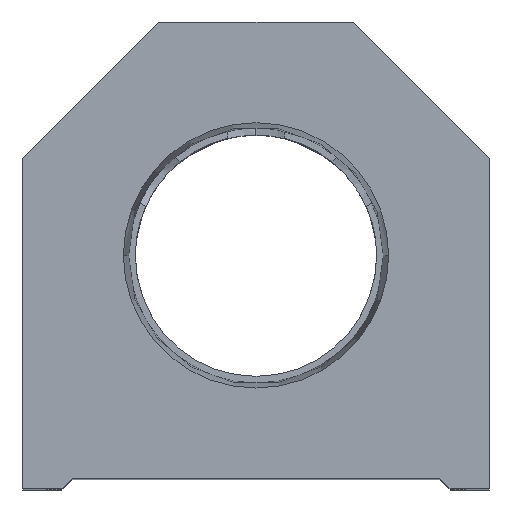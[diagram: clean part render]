
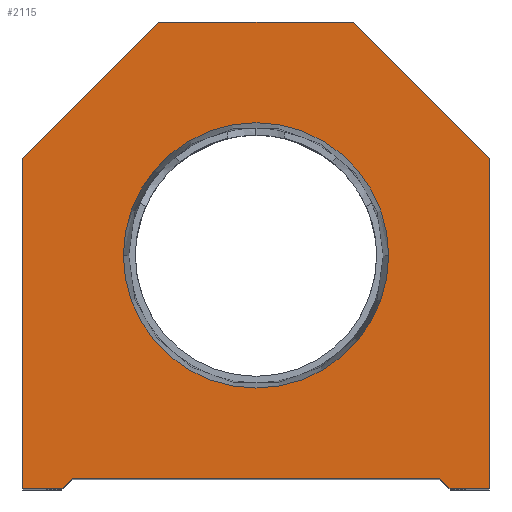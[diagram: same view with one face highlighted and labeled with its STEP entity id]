
A CAD part, top view. The second image highlights one B-rep face of the part: STEP entity #2115.
In plain terms, the highlighted planar face has unit normal (0, 0, 1).
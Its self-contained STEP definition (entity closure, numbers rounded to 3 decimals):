
#67 = VERTEX_POINT ( 'NONE', #12495 ) ;
#102 = CIRCLE ( 'NONE', #11386, 12.647 ) ;
#108 = EDGE_CURVE ( 'NONE', #3399, #3706, #11916, .T. ) ;
#152 = VECTOR ( 'NONE', #12980, 1000. ) ;
#337 = EDGE_LOOP ( 'NONE', ( #14018, #8992, #3071, #1024, #1656, #1639, #8427, #2992, #6129, #7632 ) ) ;
#482 = CARTESIAN_POINT ( 'NONE',  ( 22.25, 0., 0. ) ) ;
#711 = DIRECTION ( 'NONE',  ( 0., 1., 0. ) ) ;
#753 = EDGE_CURVE ( 'NONE', #1341, #9269, #8487, .T. ) ;
#844 = LINE ( 'NONE', #10708, #3509 ) ;
#1024 = ORIENTED_EDGE ( 'NONE', *, *, #5407, .T. ) ;
#1066 = CARTESIAN_POINT ( 'NONE',  ( -22.25, 0., 0. ) ) ;
#1316 = FACE_OUTER_BOUND ( 'NONE', #337, .T. ) ;
#1341 = VERTEX_POINT ( 'NONE', #13454 ) ;
#1413 = CARTESIAN_POINT ( 'NONE',  ( 12.647, 22.25, 0. ) ) ;
#1489 = EDGE_CURVE ( 'NONE', #12697, #2827, #8647, .T. ) ;
#1639 = ORIENTED_EDGE ( 'NONE', *, *, #8298, .T. ) ;
#1656 = ORIENTED_EDGE ( 'NONE', *, *, #13530, .T. ) ;
#2115 = ADVANCED_FACE ( 'NONE', ( #12642, #1316 ), #7051, .T. ) ;
#2171 = DIRECTION ( 'NONE',  ( 0., -1., 0. ) ) ;
#2827 = VERTEX_POINT ( 'NONE', #1413 ) ;
#2928 = CARTESIAN_POINT ( 'NONE',  ( 22.25, 0., 0. ) ) ;
#2992 = ORIENTED_EDGE ( 'NONE', *, *, #9428, .T. ) ;
#3071 = ORIENTED_EDGE ( 'NONE', *, *, #5593, .T. ) ;
#3110 = DIRECTION ( 'NONE',  ( -1., 0., 0. ) ) ;
#3399 = VERTEX_POINT ( 'NONE', #5127 ) ;
#3450 = AXIS2_PLACEMENT_3D ( 'NONE', #4512, #6731, #8948 ) ;
#3496 = VECTOR ( 'NONE', #2171, 1000. ) ;
#3509 = VECTOR ( 'NONE', #3110, 1000. ) ;
#3538 = DIRECTION ( 'NONE',  ( 0., 0., 1. ) ) ;
#3706 = VERTEX_POINT ( 'NONE', #3911 ) ;
#3911 = CARTESIAN_POINT ( 'NONE',  ( -17.5, 1., 0. ) ) ;
#3939 = DIRECTION ( 'NONE',  ( 0.707, 0.707, 0. ) ) ;
#4317 = LINE ( 'NONE', #12066, #7957 ) ;
#4478 = EDGE_CURVE ( 'NONE', #14078, #3399, #4317, .T. ) ;
#4512 = CARTESIAN_POINT ( 'NONE',  ( 0., 22.25, 0. ) ) ;
#4663 = VECTOR ( 'NONE', #5838, 1000. ) ;
#5127 = CARTESIAN_POINT ( 'NONE',  ( -18.5, 0., 0. ) ) ;
#5373 = DIRECTION ( 'NONE',  ( -0.707, 0.707, 0. ) ) ;
#5407 = EDGE_CURVE ( 'NONE', #12611, #12340, #10121, .T. ) ;
#5536 = CARTESIAN_POINT ( 'NONE',  ( 18.5, 0., 0. ) ) ;
#5593 = EDGE_CURVE ( 'NONE', #3706, #12611, #13954, .T. ) ;
#5671 = CARTESIAN_POINT ( 'NONE',  ( 17.5, 0., 0. ) ) ;
#5722 = DIRECTION ( 'NONE',  ( 1., 0., 0. ) ) ;
#5750 = DIRECTION ( 'NONE',  ( 1., 0., 0. ) ) ;
#5796 = DIRECTION ( 'NONE',  ( 0., 0., 1. ) ) ;
#5838 = DIRECTION ( 'NONE',  ( 0.707, -0.707, 0. ) ) ;
#6040 = AXIS2_PLACEMENT_3D ( 'NONE', #6979, #5796, #5722 ) ;
#6129 = ORIENTED_EDGE ( 'NONE', *, *, #753, .T. ) ;
#6146 = VECTOR ( 'NONE', #5373, 1000. ) ;
#6380 = LINE ( 'NONE', #482, #9624 ) ;
#6512 = EDGE_LOOP ( 'NONE', ( #7475, #13893 ) ) ;
#6625 = VERTEX_POINT ( 'NONE', #13038 ) ;
#6731 = DIRECTION ( 'NONE',  ( 0., 0., 1. ) ) ;
#6781 = CARTESIAN_POINT ( 'NONE',  ( 17.5, 1., 0. ) ) ;
#6846 = LINE ( 'NONE', #9058, #6146 ) ;
#6936 = CARTESIAN_POINT ( 'NONE',  ( 0., 22.25, 0. ) ) ;
#6942 = VERTEX_POINT ( 'NONE', #2928 ) ;
#6948 = CARTESIAN_POINT ( 'NONE',  ( -22.25, 0., 0. ) ) ;
#6979 = CARTESIAN_POINT ( 'NONE',  ( 0., 0., 0. ) ) ;
#7051 = PLANE ( 'NONE',  #6040 ) ;
#7386 = CARTESIAN_POINT ( 'NONE',  ( -17.5, 1., 0. ) ) ;
#7475 = ORIENTED_EDGE ( 'NONE', *, *, #12539, .F. ) ;
#7632 = ORIENTED_EDGE ( 'NONE', *, *, #8379, .T. ) ;
#7957 = VECTOR ( 'NONE', #8831, 1000. ) ;
#8191 = VECTOR ( 'NONE', #11890, 1000. ) ;
#8298 = EDGE_CURVE ( 'NONE', #6942, #67, #6380, .T. ) ;
#8379 = EDGE_CURVE ( 'NONE', #9269, #14078, #8808, .T. ) ;
#8427 = ORIENTED_EDGE ( 'NONE', *, *, #9547, .T. ) ;
#8487 = LINE ( 'NONE', #9435, #152 ) ;
#8647 = CIRCLE ( 'NONE', #3450, 12.647 ) ;
#8808 = LINE ( 'NONE', #1066, #3496 ) ;
#8831 = DIRECTION ( 'NONE',  ( 1., 0., 0. ) ) ;
#8948 = DIRECTION ( 'NONE',  ( 1., 0., 0. ) ) ;
#8992 = ORIENTED_EDGE ( 'NONE', *, *, #108, .T. ) ;
#9058 = CARTESIAN_POINT ( 'NONE',  ( 22.25, 31.5, 0. ) ) ;
#9269 = VERTEX_POINT ( 'NONE', #10402 ) ;
#9428 = EDGE_CURVE ( 'NONE', #6625, #1341, #844, .T. ) ;
#9435 = CARTESIAN_POINT ( 'NONE',  ( -22.25, 31.5, 0. ) ) ;
#9547 = EDGE_CURVE ( 'NONE', #67, #6625, #6846, .T. ) ;
#9624 = VECTOR ( 'NONE', #711, 1000. ) ;
#10121 = LINE ( 'NONE', #10256, #4663 ) ;
#10256 = CARTESIAN_POINT ( 'NONE',  ( 9.25, 9.25, 0. ) ) ;
#10402 = CARTESIAN_POINT ( 'NONE',  ( -22.25, 31.5, 0. ) ) ;
#10708 = CARTESIAN_POINT ( 'NONE',  ( 9.25, 44.5, 0. ) ) ;
#11066 = LINE ( 'NONE', #5671, #13045 ) ;
#11289 = DIRECTION ( 'NONE',  ( 1., 0., 0. ) ) ;
#11386 = AXIS2_PLACEMENT_3D ( 'NONE', #6936, #3538, #5750 ) ;
#11890 = DIRECTION ( 'NONE',  ( 1., 0., 0. ) ) ;
#11916 = LINE ( 'NONE', #14056, #14275 ) ;
#12066 = CARTESIAN_POINT ( 'NONE',  ( -17.5, 0., 0. ) ) ;
#12306 = CARTESIAN_POINT ( 'NONE',  ( -12.647, 22.25, 0. ) ) ;
#12340 = VERTEX_POINT ( 'NONE', #5536 ) ;
#12495 = CARTESIAN_POINT ( 'NONE',  ( 22.25, 31.5, 0. ) ) ;
#12539 = EDGE_CURVE ( 'NONE', #2827, #12697, #102, .T. ) ;
#12611 = VERTEX_POINT ( 'NONE', #6781 ) ;
#12642 = FACE_BOUND ( 'NONE', #6512, .T. ) ;
#12697 = VERTEX_POINT ( 'NONE', #12306 ) ;
#12980 = DIRECTION ( 'NONE',  ( -0.707, -0.707, 0. ) ) ;
#13038 = CARTESIAN_POINT ( 'NONE',  ( 9.25, 44.5, 0. ) ) ;
#13045 = VECTOR ( 'NONE', #11289, 1000. ) ;
#13454 = CARTESIAN_POINT ( 'NONE',  ( -9.25, 44.5, 0. ) ) ;
#13530 = EDGE_CURVE ( 'NONE', #12340, #6942, #11066, .T. ) ;
#13893 = ORIENTED_EDGE ( 'NONE', *, *, #1489, .F. ) ;
#13954 = LINE ( 'NONE', #7386, #8191 ) ;
#14018 = ORIENTED_EDGE ( 'NONE', *, *, #4478, .T. ) ;
#14056 = CARTESIAN_POINT ( 'NONE',  ( -9.25, 9.25, 0. ) ) ;
#14078 = VERTEX_POINT ( 'NONE', #6948 ) ;
#14275 = VECTOR ( 'NONE', #3939, 1000. ) ;
